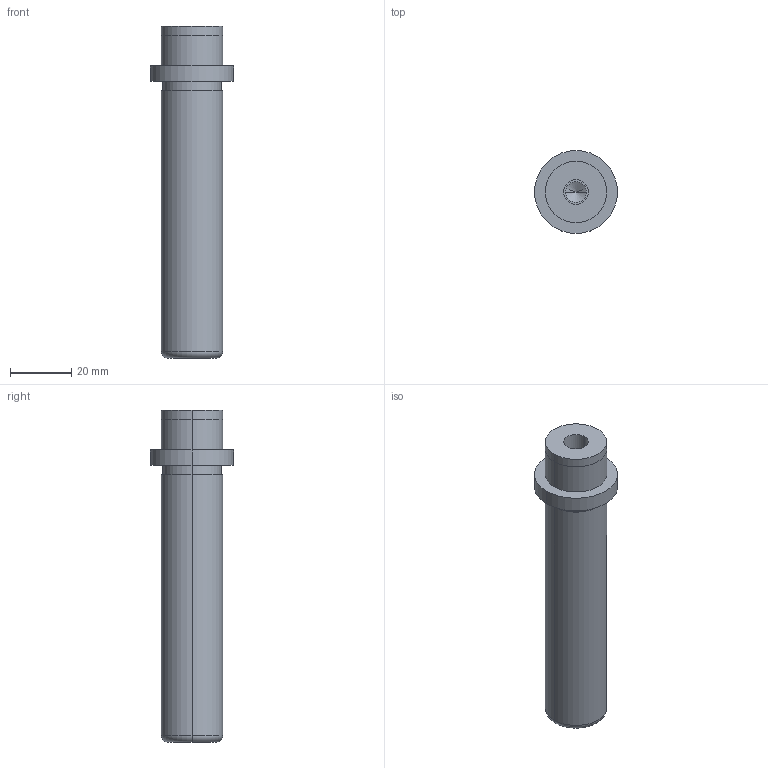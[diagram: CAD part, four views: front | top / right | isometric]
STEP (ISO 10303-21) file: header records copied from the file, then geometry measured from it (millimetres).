
FILE_DESCRIPTION(/* description */ (''),/* implementation_level */ '2;1');
FILE_NAME(/* name */ '3d_sgpw20-95_05260_r00.stp',/* time_stamp */ '2011-01-10T14:11:03+09:00',/* author */ ('MISUMI'),/* organization */ (''),/* preprocessor_version */ 'ST-DEVELOPER v11',/* originating_system */ 'UGS - NX 5.0',/* authorisation */ '');
FILE_SCHEMA (('CONFIG_CONTROL_DESIGN'));
Length unit declared in the file: millimetre
Products named in the file (1): 3d_sgpw20-95_05260_r00
Bounding box: 27 x 27 x 108 mm (x, y, z)
Volume: 33075.4 mm3; surface area: 9038.5 mm2
Topology: 1 solids, 1 shells, 31 faces, 64 edges, 38 vertices
Faces by surface type: cylinder 18, plane 7, cone 4, torus 2
Entity records: 890 total; most frequent: DIRECTION 162, CARTESIAN_POINT 130, ORIENTED_EDGE 120, AXIS2_PLACEMENT_3D 70, EDGE_CURVE 60, EDGE_LOOP 38, CIRCLE 38, VERTEX_POINT 38
